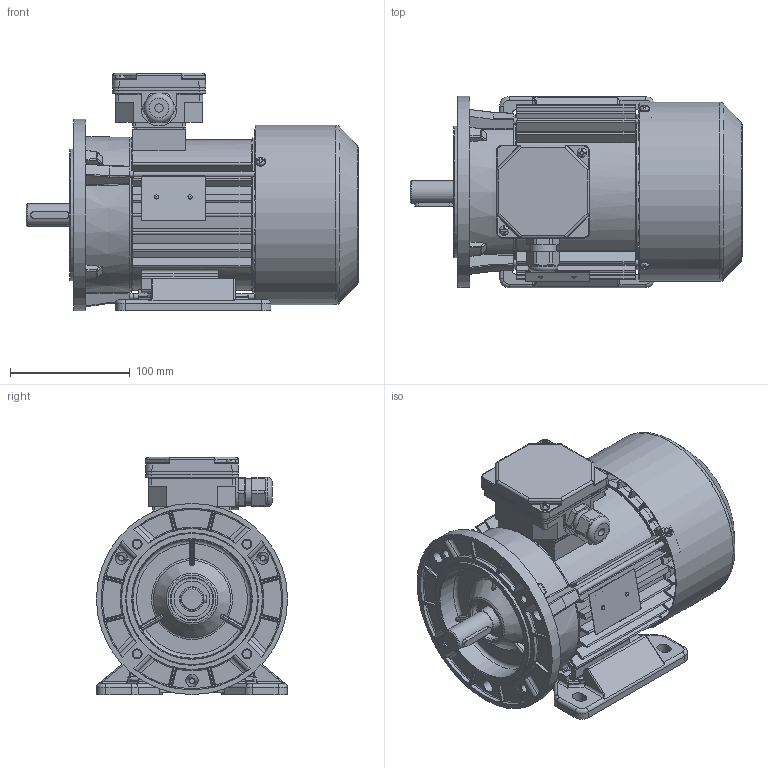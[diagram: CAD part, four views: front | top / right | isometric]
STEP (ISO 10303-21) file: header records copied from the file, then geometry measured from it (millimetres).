
FILE_DESCRIPTION(/* description */ ('Unknown'),/* implementation_level */ '2;1');
FILE_NAME(/* name */ '2SIEL80-6A1',/* time_stamp */ '2021-04-12T15:02:27+02:00',/* author */ ('Unknown'),/* organization */ ('Unknown'),/* preprocessor_version */ 'ST-DEVELOPER v16.7',/* originating_system */ 'Solid Edge',/* authorisation */ 'Unknown');
FILE_SCHEMA (('AUTOMOTIVE_DESIGN {1 0 10303 214 3 1 1}'));
Products named in the file (1): 2SIEL80-6A1
Bounding box: 277.78 x 160 x 198.5 mm (x, y, z)
Volume: 1061394.3 mm3; surface area: 544898.3 mm2
Topology: 3 solids, 3 shells, 3057 faces, 8404 edges, 5382 vertices
Faces by surface type: plane 1333, cylinder 914, bspline 370, torus 246, cone 166, sphere 28
Full cylindrical faces by diameter (mm): 2 x2, 2.4 x2, 3.7 x8, 4 x4, 4.2 x3, 4.5 x1, 4.6 x3, 4.8 x2, 5 x5, 5.5 x3, 6.5 x4, 6.8 x4, 7 x1, 8 x9, 18.998 x1, 19.298 x1, 19.498 x1, 20.298 x2, 20.398 x2, 20.4 x2, 22.3 x1, 25 x1, 25.497 x1, 25.997 x2, 26.097 x1, 26.997 x1, 28.799 x4, 30 x1, 34 x1, 35 x1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
Entity records: 123952 total; most frequent: CARTESIAN_POINT 29919, ORIENTED_EDGE 16080, DIRECTION 14542, EDGE_CURVE 8040, AXIS2_PLACEMENT_3D 5416, VERTEX_POINT 5249, LINE 3710, VECTOR 3710
